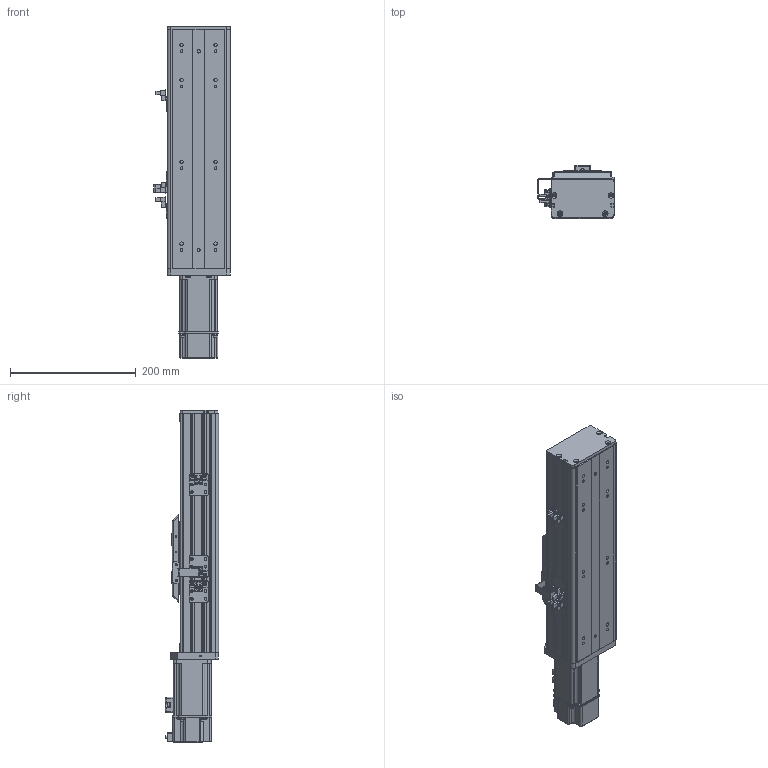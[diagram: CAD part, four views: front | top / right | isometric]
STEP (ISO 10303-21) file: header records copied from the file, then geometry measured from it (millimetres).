
FILE_DESCRIPTION (( 'STEP AP203' ), '1' );
FILE_NAME ('BOSW100-150-1610-1P-CM-M400W-O-S3（方程式2016）.step', '2020-10-10T06:29:50', ( '' ), ( '' ), 'SwSTEP 2.0', 'SolidWorks 2016', '' );
FILE_SCHEMA (( 'CONFIG_CONTROL_DESIGN' ));
Length unit declared in the file: millimetre
Products named in the file (13): 放大器内置U型微型光电传感器PM-L65; BOSW-100-1P-CM-宽轨-侧板-150客户图纸; BOSW-100-1P-CM-宽轨-钢带-150客户图纸; S400W(SMA-L040); BOSW-100-綴裔啣; BOSW&TW-100-俋离覜茼え; BOSW100-150-1610-1P-CM-M400W-O-S3（方程式2016）; BOSW&TW-100-1P-賑雄釱欶; BOSW-100-1P-CM-150諦誧芞; 俋境嫖覜嘐隅啣; 新结构AIMSW-100-1P-宽&高轨共用-滑动座上组件; BOSW&TW-100-詩湍揤沭(陔賦凳); BOSW-100-CM-宽轨-三菱M200W&400W马达板(新结构)
Assembly tree (18 placements, depth 2):
  BOSW100-150-1610-1P-CM-M400W-O-S3（方程式2016）
    BOSW-100-1P-CM-150諦誧芞
    BOSW-100-綴裔啣
    新结构AIMSW-100-1P-宽&高轨共用-滑动座上组件
    S400W(SMA-L040)
    BOSW&TW-100-詩湍揤沭(陔賦凳)  x2
    BOSW&TW-100-1P-賑雄釱欶
    BOSW&TW-100-俋离覜茼え
    俋境嫖覜嘐隅啣  x3
    放大器内置U型微型光电传感器PM-L65  x3
    BOSW-100-CM-宽轨-三菱M200W&400W马达板(新结构)
    BOSW-100-1P-CM-宽轨-侧板-150客户图纸  x2
    BOSW-100-1P-CM-宽轨-钢带-150客户图纸
Bounding box: 120.9 x 85.5 x 527.8 mm (x, y, z)
Volume: 1081613.3 mm3; surface area: 502199.4 mm2
Topology: 18 solids, 18 shells, 2467 faces, 6492 edges, 4137 vertices
Faces by surface type: plane 1218, cylinder 765, bspline 271, cone 165, torus 36, sphere 12
Entity records: 67060 total; most frequent: CARTESIAN_POINT 20306, ORIENTED_EDGE 9524, DIRECTION 9224, EDGE_CURVE 4762, AXIS2_PLACEMENT_3D 3270, VERTEX_POINT 3039, LINE 2684, VECTOR 2684
